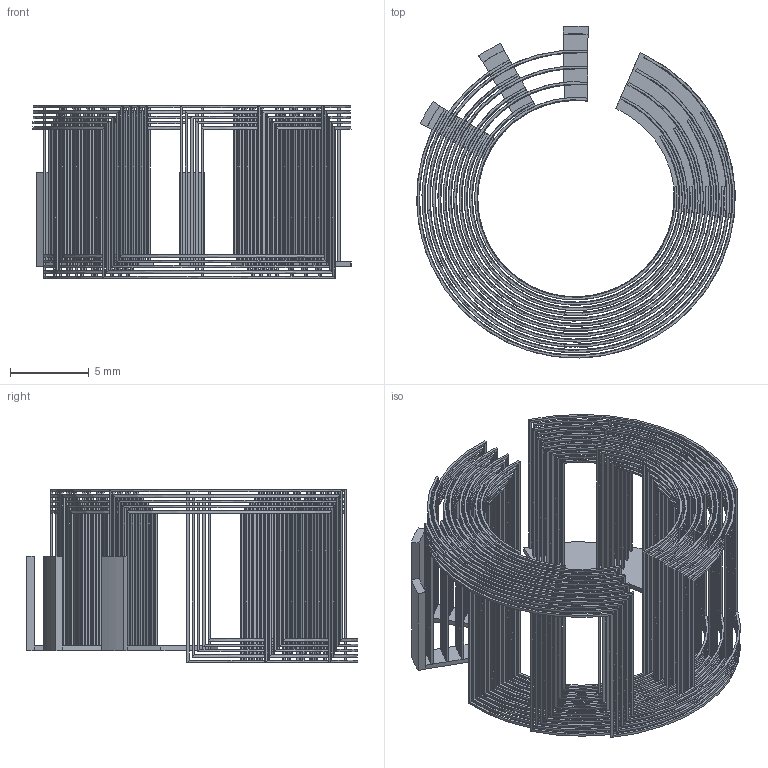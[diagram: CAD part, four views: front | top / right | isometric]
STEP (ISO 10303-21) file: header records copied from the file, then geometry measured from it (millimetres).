
FILE_DESCRIPTION(/* description */ (''),/* implementation_level */ '2;1');
FILE_NAME(/* name */ 'C:\Users\gruen\OneDrive\Desktop\3D-Druck\Induktionsmotor\Induktionsmotor Stator Draft 01.stp',/* time_stamp */ '2022-06-09T18:11:07+02:00',/* author */ ('gruen'),/* organization */ (''),/* preprocessor_version */ 'ST-DEVELOPER v18.1',/* originating_system */ 'Autodesk Inventor 2022',/* authorisation */ '');
FILE_SCHEMA (('AUTOMOTIVE_DESIGN { 1 0 10303 214 3 1 1 }'));
Length unit declared in the file: millimetre
Products named in the file (1): Induktionsmotor Draft
Bounding box: 20.3 x 21.13 x 11 mm (x, y, z)
Volume: 134.4 mm3; surface area: 2944.5 mm2
Topology: 1 solids, 1 shells, 1725 faces, 3738 edges, 2006 vertices
Faces by surface type: plane 1349, bspline 360, cylinder 16
Entity records: 56769 total; most frequent: CARTESIAN_POINT 21870, ORIENTED_EDGE 7476, DIRECTION 6624, EDGE_CURVE 3738, LINE 2384, VECTOR 2384, AXIS2_PLACEMENT_3D 2120, VERTEX_POINT 2006
